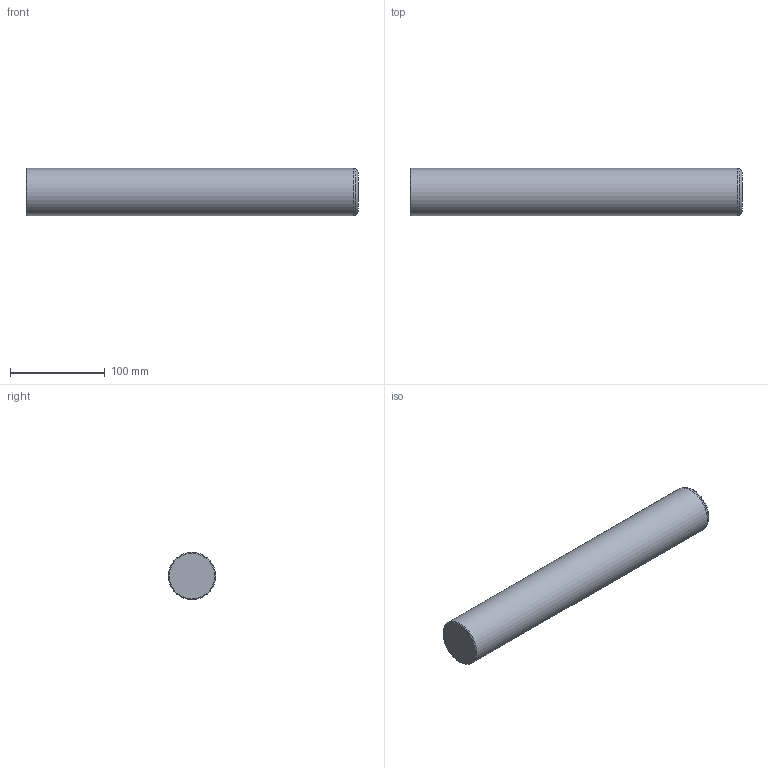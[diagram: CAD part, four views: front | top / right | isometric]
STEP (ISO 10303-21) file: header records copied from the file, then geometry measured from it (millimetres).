
FILE_DESCRIPTION(/* description */ ('Impex Ready, www.impex-ready.pl'),/* implementation_level */ '2;1');
FILE_NAME(/* name */ 'C:\Users\VIKKY\Nextcloud\SM\projekt 10 - części na stronę internetową\Pliki_3D_new\256 CIS Słup\256 CIS_STEP\CIS50350.ipt.step',/* time_stamp */ '2021-12-20T12:47:45+01:00',/* author */ ('SM'),/* organization */ (''),/* preprocessor_version */ 'ST-DEVELOPER v18.1',/* originating_system */ 'Autodesk Inventor 2021',/* authorisation */ '');
FILE_SCHEMA (('AUTOMOTIVE_DESIGN { 1 0 10303 214 3 1 1 }'));
Length unit declared in the file: millimetre
Products named in the file (1): CIS50350
Bounding box: 350 x 50 x 50 mm (x, y, z)
Volume: 686326.9 mm3; surface area: 58465.5 mm2
Topology: 1 solids, 1 shells, 6 faces, 12 edges, 8 vertices
Faces by surface type: cone 2, plane 2, torus 1, cylinder 1
Full cylindrical faces by diameter (mm): 50 x1
Entity records: 239 total; most frequent: DIRECTION 35, CARTESIAN_POINT 27, ORIENTED_EDGE 24, AXIS2_PLACEMENT_3D 16, EDGE_CURVE 12, CIRCLE 9, VERTEX_POINT 8, STYLED_ITEM 7
